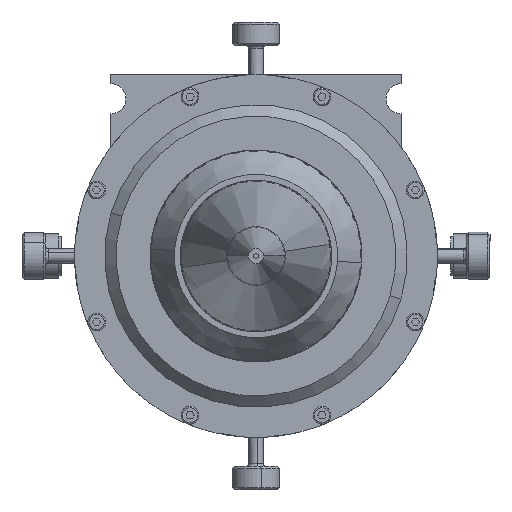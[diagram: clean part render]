
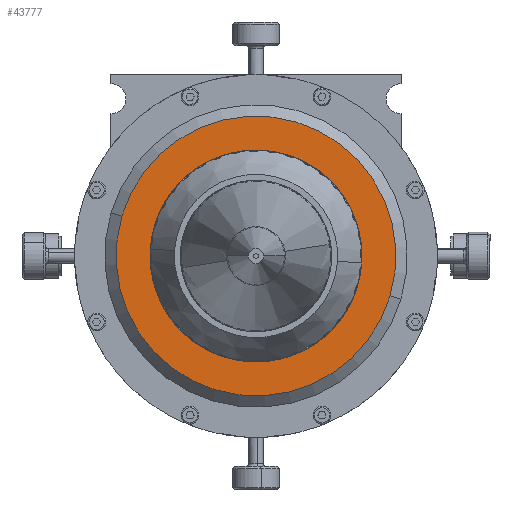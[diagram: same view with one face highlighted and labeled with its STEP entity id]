
A CAD part, front view. The second image highlights one B-rep face of the part: STEP entity #43777.
In plain terms, the highlighted planar face has unit normal (0, -1, 0).
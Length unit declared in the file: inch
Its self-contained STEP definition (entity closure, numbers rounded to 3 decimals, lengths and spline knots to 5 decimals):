
#810 = CARTESIAN_POINT ( 'NONE',  ( -0.27083, -1.85041, -0.91058 ) ) ;
#2168 = CARTESIAN_POINT ( 'NONE',  ( 0., -1.85041, 0. ) ) ;
#2570 = DIRECTION ( 'NONE',  ( 0., 1., 0. ) ) ;
#3056 = AXIS2_PLACEMENT_3D ( 'NONE', #22209, #36250, #8339 ) ;
#3339 = ORIENTED_EDGE ( 'NONE', *, *, #29187, .F. ) ;
#7446 = DIRECTION ( 'NONE',  ( 0.959, 0., -0.285 ) ) ;
#8339 = DIRECTION ( 'NONE',  ( 0., 0., 1. ) ) ;
#9903 = CARTESIAN_POINT ( 'NONE',  ( 0., -1.85041, 0. ) ) ;
#10044 = DIRECTION ( 'NONE',  ( 0., 1., 0. ) ) ;
#11649 = FACE_BOUND ( 'NONE', #56201, .T. ) ;
#14770 = VERTEX_POINT ( 'NONE', #50331 ) ;
#16090 = VERTEX_POINT ( 'NONE', #47142 ) ;
#17121 = AXIS2_PLACEMENT_3D ( 'NONE', #24323, #10044, #52102 ) ;
#18523 = CIRCLE ( 'NONE', #3056, 0.875 ) ;
#22209 = CARTESIAN_POINT ( 'NONE',  ( 0., -1.85041, 0. ) ) ;
#22245 = CARTESIAN_POINT ( 'NONE',  ( -0.74858, -1.85041, 0.45304 ) ) ;
#23682 = EDGE_CURVE ( 'Defeatured_0_1504+Defeatured_0_8+Defeatured_0_8+Defeatured_0_8', #14770, #43766, #43083, .T. ) ;
#23974 = ORIENTED_EDGE ( 'NONE', *, *, #23682, .T. ) ;
#24323 = CARTESIAN_POINT ( 'NONE',  ( 0., -1.85041, 0. ) ) ;
#24658 = AXIS2_PLACEMENT_3D ( 'NONE', #810, #51636, #50433 ) ;
#26757 = CARTESIAN_POINT ( 'NONE',  ( -1.10827, -1.85041, 0.32963 ) ) ;
#27290 = PLANE ( 'NONE',  #24658 ) ;
#29129 = FACE_OUTER_BOUND ( 'NONE', #46739, .T. ) ;
#29187 = EDGE_CURVE ( 'Defeatured_0_1503+Defeatured_0_1504+Defeatured_0_1504+Defeatured_0_1504', #16090, #58370, #51845, .T. ) ;
#34669 = AXIS2_PLACEMENT_3D ( 'NONE', #2168, #2570, #48738 ) ;
#36250 = DIRECTION ( 'NONE',  ( 0., 1., 0. ) ) ;
#39269 = DIRECTION ( 'NONE',  ( 0., 1., 0. ) ) ;
#42853 = ORIENTED_EDGE ( 'NONE', *, *, #48825, .F. ) ;
#43083 = CIRCLE ( 'NONE', #34669, 0.875 ) ;
#43766 = VERTEX_POINT ( 'NONE', #22245 ) ;
#43777 = ADVANCED_FACE ( 'Defeatured_0_1504', ( #11649, #29129 ), #27290, .F. ) ;
#46149 = AXIS2_PLACEMENT_3D ( 'NONE', #9903, #39269, #7446 ) ;
#46739 = EDGE_LOOP ( 'NONE', ( #3339, #42853 ) ) ;
#47142 = CARTESIAN_POINT ( 'NONE',  ( 1.10827, -1.85041, -0.32963 ) ) ;
#48738 = DIRECTION ( 'NONE',  ( 0., 0., 1. ) ) ;
#48825 = EDGE_CURVE ( 'Defeatured_0_1503+Defeatured_0_1504+Defeatured_0_1504+Defeatured_0_1504', #58370, #16090, #54235, .T. ) ;
#50331 = CARTESIAN_POINT ( 'NONE',  ( 0.74858, -1.85041, -0.45304 ) ) ;
#50433 = DIRECTION ( 'NONE',  ( 0.959, 0., -0.285 ) ) ;
#51636 = DIRECTION ( 'NONE',  ( 0., 1., 0. ) ) ;
#51845 = CIRCLE ( 'NONE', #46149, 1.15625 ) ;
#52102 = DIRECTION ( 'NONE',  ( 0.959, 0., -0.285 ) ) ;
#54041 = ORIENTED_EDGE ( 'NONE', *, *, #57027, .T. ) ;
#54235 = CIRCLE ( 'NONE', #17121, 1.15625 ) ;
#56201 = EDGE_LOOP ( 'NONE', ( #54041, #23974 ) ) ;
#57027 = EDGE_CURVE ( 'Defeatured_0_1504+Defeatured_0_8+Defeatured_0_8+Defeatured_0_8', #43766, #14770, #18523, .T. ) ;
#58370 = VERTEX_POINT ( 'NONE', #26757 ) ;
